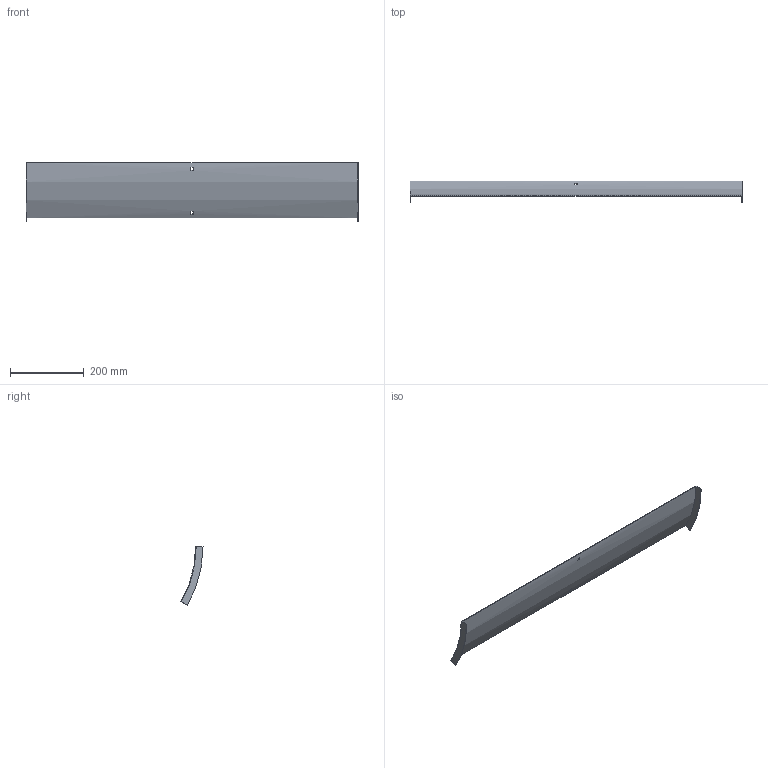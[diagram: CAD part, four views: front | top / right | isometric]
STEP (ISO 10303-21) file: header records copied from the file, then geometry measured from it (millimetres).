
FILE_DESCRIPTION (( 'STEP AP214' ), '1' );
FILE_NAME ('B2X32N3R900X.step', '2025-03-20T09:40:19', ( '' ), ( '' ), 'SwSTEP 2.0', 'SolidWorks 2023', '' );
FILE_SCHEMA (( 'AUTOMOTIVE_DESIGN' ));
Length unit declared in the file: millimetre
Products named in the file (1): B2X32N3R900X
Bounding box: 903 x 59.99 x 159.25 mm (x, y, z)
Volume: 221043.4 mm3; surface area: 298136.8 mm2
Topology: 1 solids, 1 shells, 18 faces, 48 edges, 32 vertices
Faces by surface type: plane 14, cylinder 4
Entity records: 599 total; most frequent: DIRECTION 102, CARTESIAN_POINT 99, ORIENTED_EDGE 96, EDGE_CURVE 48, AXIS2_PLACEMENT_3D 35, LINE 32, VECTOR 32, VERTEX_POINT 32
